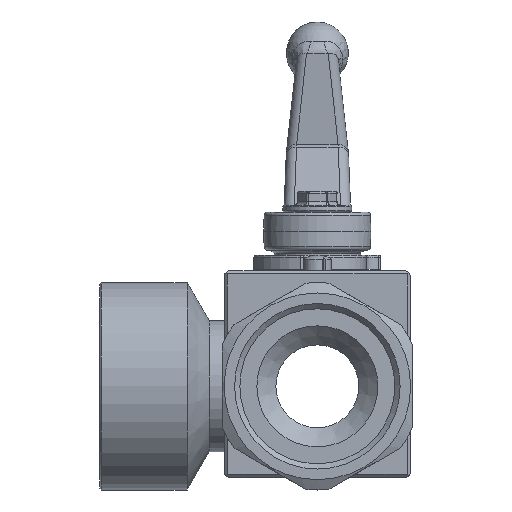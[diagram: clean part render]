
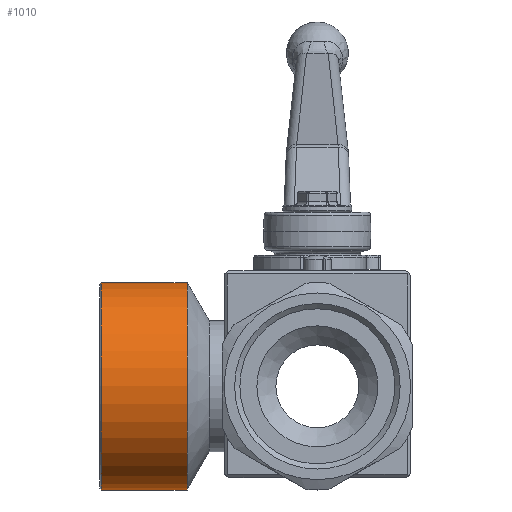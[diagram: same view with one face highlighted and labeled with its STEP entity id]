
A CAD part, front view. The second image highlights one B-rep face of the part: STEP entity #1010.
In plain terms, the highlighted cylindrical face has radius 30 mm (diameter 60 mm), a full revolution.
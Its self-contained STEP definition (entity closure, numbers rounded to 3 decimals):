
#1010 = ADVANCED_FACE( '', ( #2114, #2115 ), #2116, .T. );
#2114 = FACE_OUTER_BOUND( '', #3961, .T. );
#2115 = FACE_OUTER_BOUND( '', #3962, .T. );
#2116 = CYLINDRICAL_SURFACE( '', #3963, 30. );
#3961 = EDGE_LOOP( '', ( #6520 ) );
#3962 = EDGE_LOOP( '', ( #6521 ) );
#3963 = AXIS2_PLACEMENT_3D( '', #6522, #6523, #6524 );
#6520 = ORIENTED_EDGE( '', *, *, #8811, .T. );
#6521 = ORIENTED_EDGE( '', *, *, #8271, .F. );
#6522 = CARTESIAN_POINT( '', ( 0., 39., 0. ) );
#6523 = DIRECTION( '', ( 0., 1., 0. ) );
#6524 = DIRECTION( '', ( 0., 0., -1. ) );
#8271 = EDGE_CURVE( '', #9698, #9698, #9699, .T. );
#8811 = EDGE_CURVE( '', #10492, #10492, #10493, .F. );
#9698 = VERTEX_POINT( '', #11763 );
#9699 = CIRCLE( '', #11764, 30. );
#10492 = VERTEX_POINT( '', #13326 );
#10493 = CIRCLE( '', #13327, 30. );
#11763 = CARTESIAN_POINT( '', ( 0., 13.68, -30. ) );
#11764 = AXIS2_PLACEMENT_3D( '', #14631, #14632, #14633 );
#13326 = CARTESIAN_POINT( '', ( 0., 38.5, 30. ) );
#13327 = AXIS2_PLACEMENT_3D( '', #15369, #15370, #15371 );
#14631 = CARTESIAN_POINT( '', ( 0., 13.68, 0. ) );
#14632 = DIRECTION( '', ( 0., -1., 0. ) );
#14633 = DIRECTION( '', ( 0., 0., -1. ) );
#15369 = CARTESIAN_POINT( '', ( 0., 38.5, 0. ) );
#15370 = DIRECTION( '', ( 0., 1., 0. ) );
#15371 = DIRECTION( '', ( 0., 0., 1. ) );
